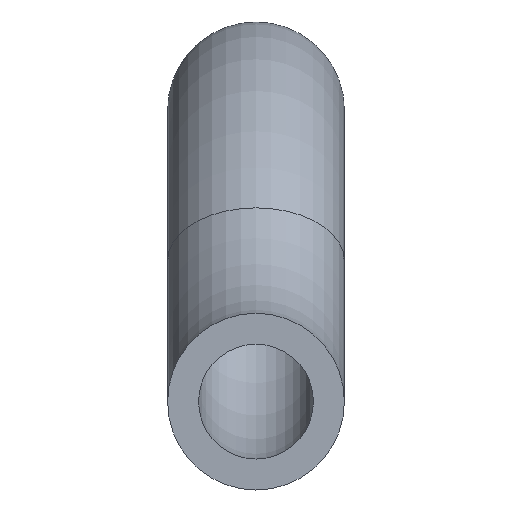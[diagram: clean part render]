
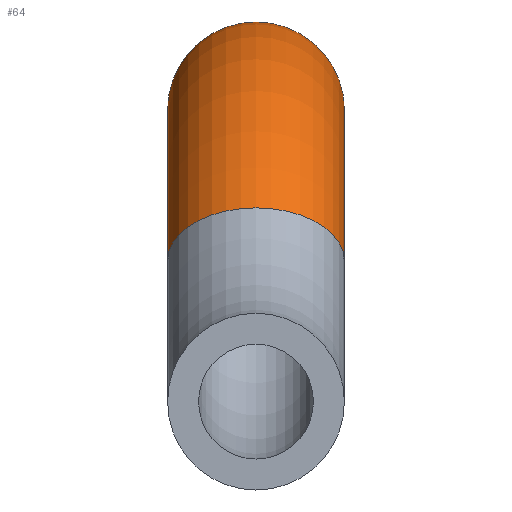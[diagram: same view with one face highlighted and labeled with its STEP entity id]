
A CAD part, front view. The second image highlights one B-rep face of the part: STEP entity #64.
In plain terms, the highlighted toroidal (fillet/blend) face has major radius 43 mm and minor radius 10 mm.
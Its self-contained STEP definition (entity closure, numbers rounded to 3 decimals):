
#64=ADVANCED_FACE('',(#164,#166),#168,.T.);
#164=FACE_OUTER_BOUND('',#165,.T.);
#165=EDGE_LOOP('',(#195));
#166=FACE_OUTER_BOUND('',#167,.T.);
#167=EDGE_LOOP('',(#196));
#168=TOROIDAL_SURFACE('',#169,43.,10.);
#169=AXIS2_PLACEMENT_3D('',#170,#171,#172);
#170=CARTESIAN_POINT('',(0.,0.,-10.));
#171=DIRECTION('',(1.,0.,0.));
#172=DIRECTION('',(0.,0.798,0.602));
#195=ORIENTED_EDGE('',*,*,#207,.T.);
#196=ORIENTED_EDGE('',*,*,#208,.F.);
#207=EDGE_CURVE('',#229,#229,#230,.T.);
#208=EDGE_CURVE('',#231,#231,#232,.T.);
#229=VERTEX_POINT('',#283);
#230=CIRCLE('',#284,10.);
#231=VERTEX_POINT('',#288);
#232=CIRCLE('',#289,10.);
#283=CARTESIAN_POINT('',(-10.,34.322,15.904));
#284=AXIS2_PLACEMENT_3D('',#285,#286,#287);
#285=CARTESIAN_POINT('',(0.,34.322,15.904));
#286=DIRECTION('',(0.,-0.602,0.798));
#287=DIRECTION('',(-1.,0.,0.));
#288=CARTESIAN_POINT('',(-10.,-34.322,15.904));
#289=AXIS2_PLACEMENT_3D('',#290,#291,#292);
#290=CARTESIAN_POINT('',(0.,-34.322,15.904));
#291=DIRECTION('',(0.,-0.602,-0.798));
#292=DIRECTION('',(-1.,0.,0.));
